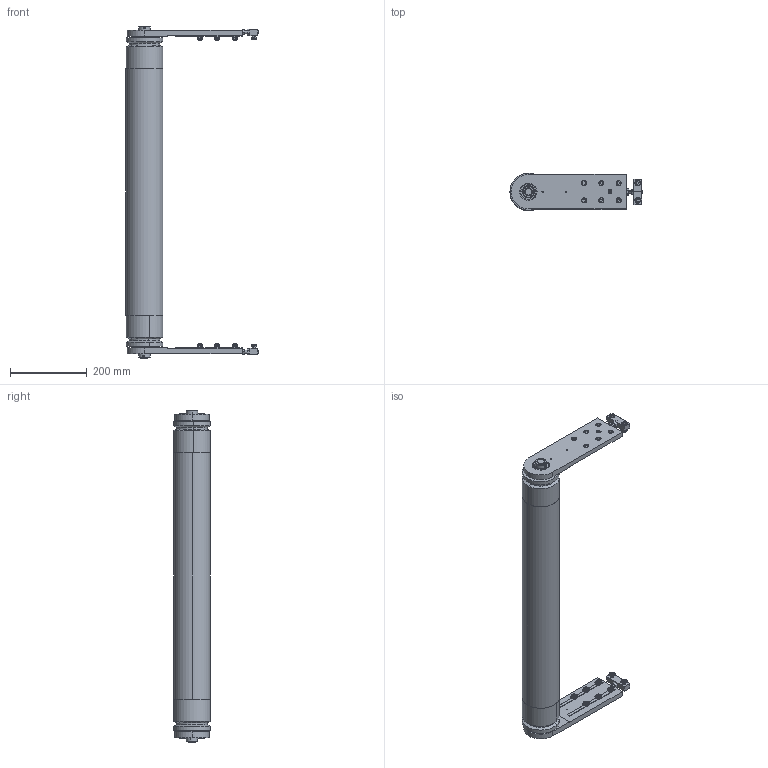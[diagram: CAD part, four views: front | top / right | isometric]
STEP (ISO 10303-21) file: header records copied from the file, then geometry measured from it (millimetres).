
FILE_DESCRIPTION (( 'STEP AP203' ), '1' );
FILE_NAME ('084.095.KIZ.800.STEP', '2019-07-30T08:28:31', ( '' ), ( '' ), 'SwSTEP 2.0', 'SolidWorks 2018', '' );
FILE_SCHEMA (( 'CONFIG_CONTROL_DESIGN' ));
Length unit declared in the file: millimetre
Products named in the file (11): 084.302.000 DADI ALUSIC 13x13-1_084.302.004; 084.808.002_084.808.002; 084.812.025.800_Default<A macchina>; CHIAVETTE_A 8x7x50 UNI 6604-69; 084.301.000 VITI ALUSIC_084.301.003; 084.803.003; 084.095.KIZ.800; DADO ESAGONALE AUTOBLOCCANTE RIBASSATO M30-UNI 7474; 449.014.106; 084.802.019_084.802.019; 084.812.024.800
Assembly tree (45 placements, depth 2):
  084.095.KIZ.800
    449.014.106  x2
    084.803.003  x2
    084.812.024.800
    084.812.025.800_Default<A macchina>
    084.808.002_084.808.002  x2
    084.802.019_084.802.019  x2
    DADO ESAGONALE AUTOBLOCCANTE RIBASSATO M30-UNI 7474  x2
    CHIAVETTE_A 8x7x50 UNI 6604-69
    084.301.000 VITI ALUSIC_084.301.003  x16
    084.302.000 DADI ALUSIC 13x13-1_084.302.004  x16
Bounding box: 344 x 96 x 865 mm (x, y, z)
Volume: 3514461 mm3; surface area: 1021456.3 mm2
Topology: 51 solids, 53 shells, 1242 faces, 3097 edges, 2007 vertices
Faces by surface type: plane 478, cylinder 380, torus 148, bspline 120, cone 108, sphere 8
Entity records: 14408 total; most frequent: CARTESIAN_POINT 3159, DIRECTION 1962, ORIENTED_EDGE 1868, EDGE_CURVE 934, AXIS2_PLACEMENT_3D 765, VERTEX_POINT 608, VECTOR 432, LINE 432
